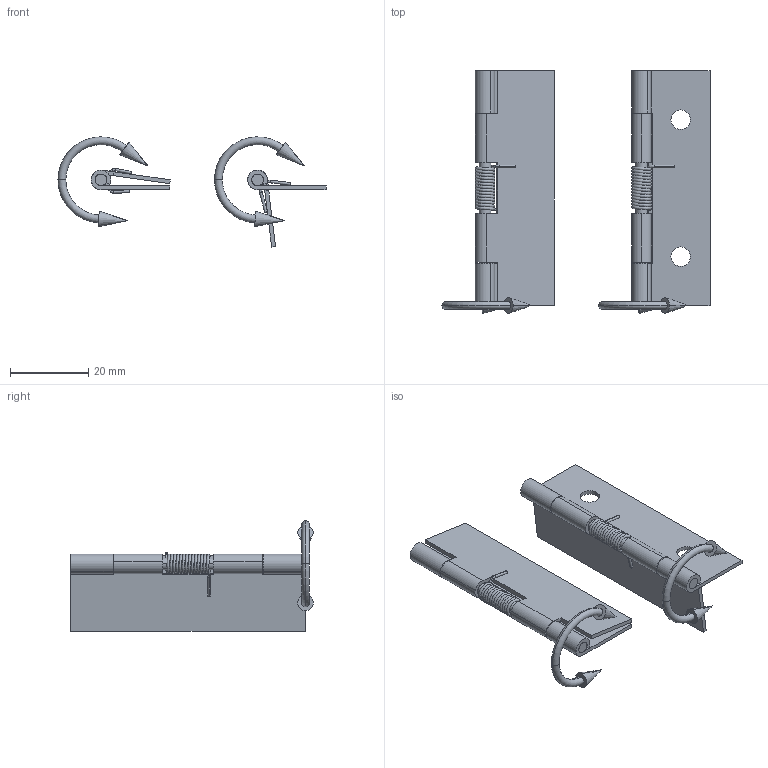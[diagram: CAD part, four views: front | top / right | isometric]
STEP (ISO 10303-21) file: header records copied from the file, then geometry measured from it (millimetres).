
FILE_DESCRIPTION((''),'2;1');
FILE_NAME('6064.stp','2022-08-26T13:02:11',(''),(''),'Mechanical Desktop 2006','Mechanical Desktop 2006',', , ');
FILE_SCHEMA(('CONFIG_CONTROL_DESIGN'));
Length unit declared in the file: millimetre
Products named in the file (10): 6064; TEIL1; TEIL2; TEIL3; DREHFEDERN - 0.700000 X 5.000000 X 14.000000; ~TEIL1; ~TEIL2; ~TEIL3; ~DREHFEDERN - 0.700000 X 5.000000 X 14.000000; ~~TEIL4
Assembly tree (10 placements, depth 2):
  6064
    TEIL1
    TEIL2
    TEIL3
    DREHFEDERN - 0.700000 X 5.000000 X 14.000000
    ~TEIL1
    ~TEIL2
    ~TEIL3
    ~DREHFEDERN - 0.700000 X 5.000000 X 14.000000
    ~~TEIL4  x2
Bounding box: 68.5 x 62.05 x 28.18 mm (x, y, z)
Volume: 6029.6 mm3; surface area: 12962.2 mm2
Topology: 10 solids, 10 shells, 157 faces, 395 edges, 256 vertices
Faces by surface type: cylinder 72, plane 60, torus 10, cone 8, bspline 7
Entity records: 13311 total; most frequent: CARTESIAN_POINT 9422, DIRECTION 828, ORIENTED_EDGE 734, EDGE_CURVE 367, AXIS2_PLACEMENT_3D 315, VERTEX_POINT 240, VECTOR 198, LINE 198
